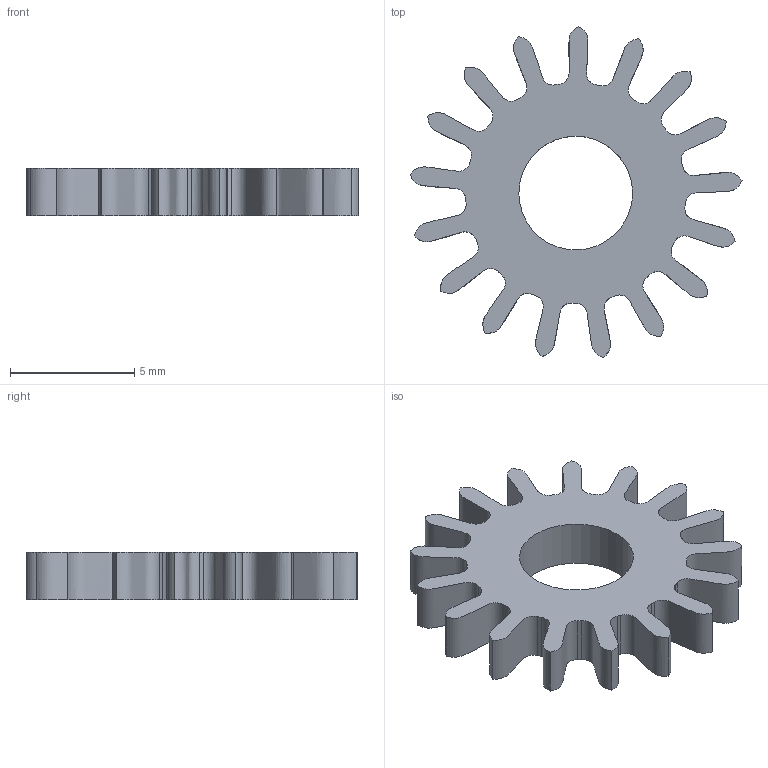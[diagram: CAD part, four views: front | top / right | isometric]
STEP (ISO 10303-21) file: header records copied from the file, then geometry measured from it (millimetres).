
FILE_DESCRIPTION(/* description */ (''),/* implementation_level */ '2;1');
FILE_NAME(/* name */ 'D:\Desktop\WatchCAdFiles\print2endTime\3.5\Solid5.stp',/* time_stamp */ '2019-05-02T16:56:49+02:00',/* author */ ('fkhad'),/* organization */ (''),/* preprocessor_version */ 'ST-DEVELOPER v17',/* originating_system */ 'Autodesk Inventor 2018',/* authorisation */ '');
FILE_SCHEMA (('AUTOMOTIVE_DESIGN { 1 0 10303 214 3 1 1 }'));
Length unit declared in the file: inch
Products named in the file (1): Solid5
Bounding box: 13.38 x 13.35 x 1.93 mm (x, y, z)
Volume: 139.9 mm3; surface area: 355.2 mm2
Topology: 1 solids, 1 shells, 54 faces, 158 edges, 106 vertices
Faces by surface type: bspline 34, cylinder 18, plane 2
Full cylindrical faces by diameter (mm): 4.585 x1
Entity records: 2514 total; most frequent: CARTESIAN_POINT 1169, ORIENTED_EDGE 316, DIRECTION 170, EDGE_CURVE 158, VERTEX_POINT 106, B_SPLINE_CURVE_WITH_KNOTS 68, AXIS2_PLACEMENT_3D 59, EDGE_LOOP 56
